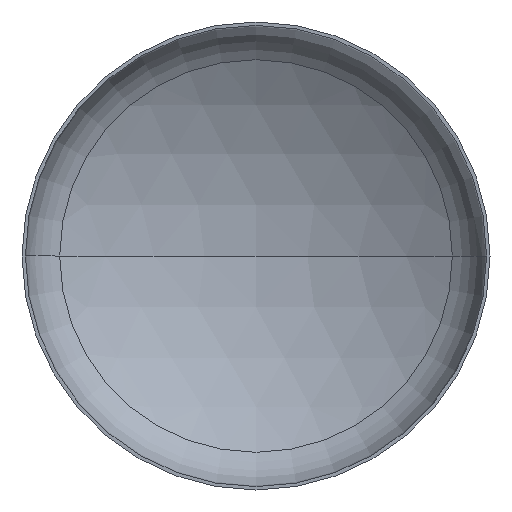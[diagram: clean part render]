
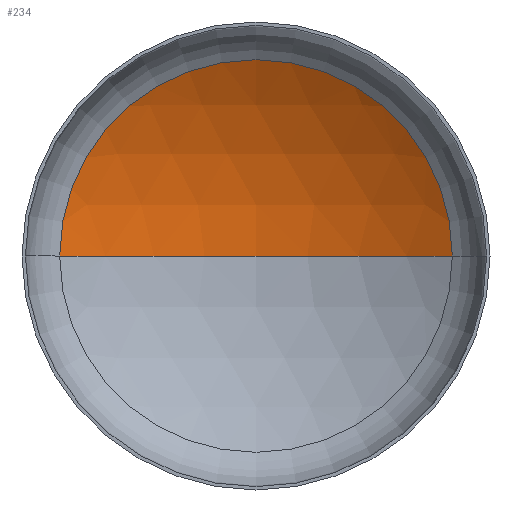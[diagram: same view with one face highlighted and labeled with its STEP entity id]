
A CAD part, front view. The second image highlights one B-rep face of the part: STEP entity #234.
In plain terms, the highlighted spherical face has radius 3040 mm.
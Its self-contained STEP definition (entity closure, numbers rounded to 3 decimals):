
#2 = AXIS2_PLACEMENT_3D ( 'NONE', #280, #44, #305 ) ;
#30 = ORIENTED_EDGE ( 'NONE', *, *, #357, .T. ) ;
#33 = EDGE_LOOP ( 'NONE', ( #180, #30, #89 ) ) ;
#34 = AXIS2_PLACEMENT_3D ( 'NONE', #207, #208, #232 ) ;
#38 = AXIS2_PLACEMENT_3D ( 'NONE', #168, #206, #197 ) ;
#44 = DIRECTION ( 'NONE',  ( 0., 0., 1. ) ) ;
#76 = VERTEX_POINT ( 'NONE', #188 ) ;
#77 = AXIS2_PLACEMENT_3D ( 'NONE', #287, #290, #253 ) ;
#89 = ORIENTED_EDGE ( 'NONE', *, *, #352, .T. ) ;
#109 = VERTEX_POINT ( 'NONE', #359 ) ;
#153 = CIRCLE ( 'NONE', #38, 1593.678 ) ;
#168 = CARTESIAN_POINT ( 'NONE',  ( 0., 583.17, 0. ) ) ;
#180 = ORIENTED_EDGE ( 'NONE', *, *, #398, .F. ) ;
#188 = CARTESIAN_POINT ( 'NONE',  ( 0., 1034.389, 0. ) ) ;
#197 = DIRECTION ( 'NONE',  ( 1., 0., 0. ) ) ;
#204 = FACE_OUTER_BOUND ( 'NONE', #33, .T. ) ;
#206 = DIRECTION ( 'NONE',  ( 0., -1., 0. ) ) ;
#207 = CARTESIAN_POINT ( 'NONE',  ( 0., -2005.611, 0. ) ) ;
#208 = DIRECTION ( 'NONE',  ( 0., 0., -1. ) ) ;
#232 = DIRECTION ( 'NONE',  ( -1., 0., 0. ) ) ;
#234 = ADVANCED_FACE ( 'NONE', ( #204 ), #338, .F. ) ;
#253 = DIRECTION ( 'NONE',  ( -1., 0., 0. ) ) ;
#260 = VERTEX_POINT ( 'NONE', #284 ) ;
#280 = CARTESIAN_POINT ( 'NONE',  ( 0., -2005.611, 0. ) ) ;
#284 = CARTESIAN_POINT ( 'NONE',  ( -1593.678, 583.17, 0. ) ) ;
#287 = CARTESIAN_POINT ( 'NONE',  ( 0., -2005.611, 0. ) ) ;
#290 = DIRECTION ( 'NONE',  ( 0., 0., -1. ) ) ;
#304 = CIRCLE ( 'NONE', #2, 3040. ) ;
#305 = DIRECTION ( 'NONE',  ( 1., 0., 0. ) ) ;
#321 = CIRCLE ( 'NONE', #34, 3040. ) ;
#338 = SPHERICAL_SURFACE ( 'NONE', #77, 3040. ) ;
#352 = EDGE_CURVE ( 'NONE', #109, #260, #153, .T. ) ;
#357 = EDGE_CURVE ( 'NONE', #76, #109, #321, .T. ) ;
#359 = CARTESIAN_POINT ( 'NONE',  ( 1593.678, 583.17, 0. ) ) ;
#398 = EDGE_CURVE ( 'NONE', #76, #260, #304, .T. ) ;
